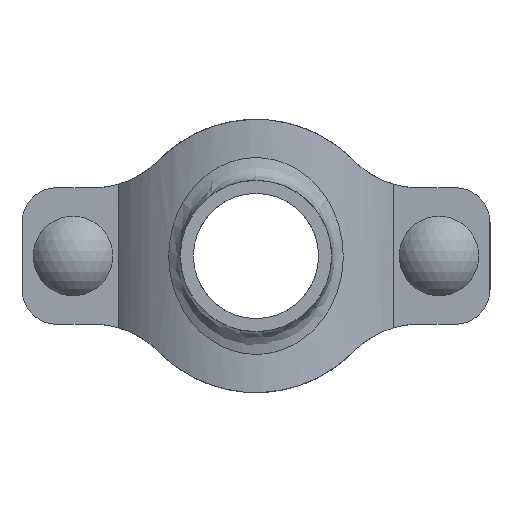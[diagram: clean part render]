
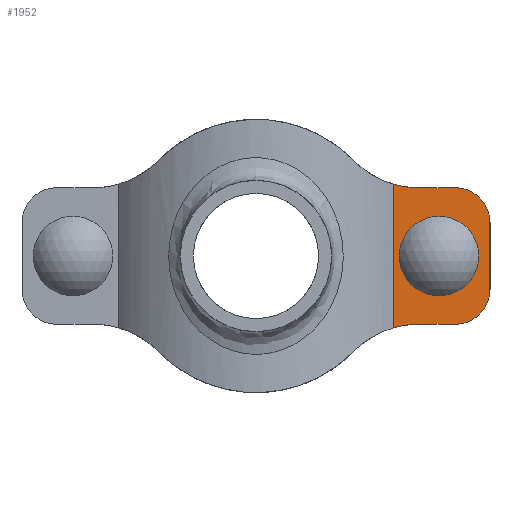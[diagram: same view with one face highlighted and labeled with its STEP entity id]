
A CAD part, front view. The second image highlights one B-rep face of the part: STEP entity #1952.
In plain terms, the highlighted planar face has unit normal (0, -1, 0) as drawn and (0, 1, 0) by its records, which use the part's own axes.
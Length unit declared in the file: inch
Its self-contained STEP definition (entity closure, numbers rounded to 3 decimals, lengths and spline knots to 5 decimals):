
#127=FACE_BOUND('',#345,.T.);
#218=FACE_OUTER_BOUND('',#344,.T.);
#344=EDGE_LOOP('',(#1623,#1624,#1625,#1626,#1627,#1628,#1629,#1630));
#345=EDGE_LOOP('',(#1631,#1632,#1633,#1634));
#457=LINE('',#3719,#603);
#468=LINE('',#3788,#614);
#472=LINE('',#3799,#618);
#490=LINE('',#4006,#636);
#491=LINE('',#4010,#637);
#492=LINE('',#4013,#638);
#603=VECTOR('',#2575,0.3937);
#614=VECTOR('',#2610,0.3937);
#618=VECTOR('',#2622,0.3937);
#636=VECTOR('',#2708,0.3937);
#637=VECTOR('',#2711,0.3937);
#638=VECTOR('',#2714,0.3937);
#712=CIRCLE('',#2164,0.2875);
#714=CIRCLE('',#2168,0.2875);
#733=CIRCLE('',#2203,1.);
#734=CIRCLE('',#2204,1.);
#735=CIRCLE('',#2205,0.38);
#736=CIRCLE('',#2206,0.38);
#858=VERTEX_POINT('',#3707);
#859=VERTEX_POINT('',#3718);
#869=VERTEX_POINT('',#3778);
#870=VERTEX_POINT('',#3779);
#873=VERTEX_POINT('',#3787);
#875=VERTEX_POINT('',#3793);
#907=VERTEX_POINT('',#4001);
#908=VERTEX_POINT('',#4003);
#909=VERTEX_POINT('',#4005);
#910=VERTEX_POINT('',#4007);
#911=VERTEX_POINT('',#4009);
#912=VERTEX_POINT('',#4011);
#1089=EDGE_CURVE('',#859,#858,#457,.T.);
#1104=EDGE_CURVE('',#869,#870,#712,.T.);
#1108=EDGE_CURVE('',#870,#873,#468,.T.);
#1111=EDGE_CURVE('',#873,#875,#714,.T.);
#1114=EDGE_CURVE('',#875,#869,#472,.T.);
#1156=EDGE_CURVE('',#859,#907,#733,.T.);
#1157=EDGE_CURVE('',#908,#858,#734,.T.);
#1158=EDGE_CURVE('',#909,#908,#490,.T.);
#1159=EDGE_CURVE('',#910,#909,#735,.T.);
#1160=EDGE_CURVE('',#911,#910,#491,.T.);
#1161=EDGE_CURVE('',#912,#911,#736,.T.);
#1162=EDGE_CURVE('',#907,#912,#492,.T.);
#1623=ORIENTED_EDGE('',*,*,#1156,.F.);
#1624=ORIENTED_EDGE('',*,*,#1089,.T.);
#1625=ORIENTED_EDGE('',*,*,#1157,.F.);
#1626=ORIENTED_EDGE('',*,*,#1158,.F.);
#1627=ORIENTED_EDGE('',*,*,#1159,.F.);
#1628=ORIENTED_EDGE('',*,*,#1160,.F.);
#1629=ORIENTED_EDGE('',*,*,#1161,.F.);
#1630=ORIENTED_EDGE('',*,*,#1162,.F.);
#1631=ORIENTED_EDGE('',*,*,#1111,.T.);
#1632=ORIENTED_EDGE('',*,*,#1114,.T.);
#1633=ORIENTED_EDGE('',*,*,#1104,.T.);
#1634=ORIENTED_EDGE('',*,*,#1108,.T.);
#1749=PLANE('',#2202);
#1952=ADVANCED_FACE('',(#218,#127),#1749,.F.);
#2164=AXIS2_PLACEMENT_3D('',#3780,#2602,#2603);
#2168=AXIS2_PLACEMENT_3D('',#3794,#2615,#2616);
#2202=AXIS2_PLACEMENT_3D('',#4000,#2702,#2703);
#2203=AXIS2_PLACEMENT_3D('',#4002,#2704,#2705);
#2204=AXIS2_PLACEMENT_3D('',#4004,#2706,#2707);
#2205=AXIS2_PLACEMENT_3D('',#4008,#2709,#2710);
#2206=AXIS2_PLACEMENT_3D('',#4012,#2712,#2713);
#2575=DIRECTION('',(0.,0.,-1.));
#2602=DIRECTION('center_axis',(0.,-1.,0.));
#2603=DIRECTION('ref_axis',(-1.,0.,0.));
#2610=DIRECTION('',(0.,0.,-1.));
#2615=DIRECTION('center_axis',(0.,-1.,0.));
#2616=DIRECTION('ref_axis',(1.,0.,0.));
#2622=DIRECTION('',(0.,0.,1.));
#2702=DIRECTION('center_axis',(0.,-1.,0.));
#2703=DIRECTION('ref_axis',(1.,0.,0.));
#2704=DIRECTION('center_axis',(0.,1.,0.));
#2705=DIRECTION('ref_axis',(-0.714,0.,0.7));
#2706=DIRECTION('center_axis',(0.,1.,0.));
#2707=DIRECTION('ref_axis',(0.,0.,-1.));
#2708=DIRECTION('',(1.,0.,0.));
#2709=DIRECTION('center_axis',(0.,-1.,0.));
#2710=DIRECTION('ref_axis',(0.,0.,-1.));
#2711=DIRECTION('',(0.,0.,-1.));
#2712=DIRECTION('center_axis',(0.,-1.,0.));
#2713=DIRECTION('ref_axis',(-1.,0.,0.));
#2714=DIRECTION('',(-1.,0.,0.));
#3707=CARTESIAN_POINT('',(-1.50967,1.25,-0.78875));
#3718=CARTESIAN_POINT('',(-1.50967,1.25,0.78875));
#3719=CARTESIAN_POINT('',(-1.50967,1.25,0.));
#3778=CARTESIAN_POINT('',(-1.7225,1.25,0.0925));
#3779=CARTESIAN_POINT('',(-2.2975,1.25,0.0925));
#3780=CARTESIAN_POINT('Origin',(-2.01,1.25,0.0925));
#3787=CARTESIAN_POINT('',(-2.2975,1.25,-0.0925));
#3788=CARTESIAN_POINT('',(-2.2975,1.25,-0.04625));
#3793=CARTESIAN_POINT('',(-1.7225,1.25,-0.0925));
#3794=CARTESIAN_POINT('Origin',(-2.01,1.25,-0.0925));
#3799=CARTESIAN_POINT('',(-1.7225,1.25,0.04625));
#4000=CARTESIAN_POINT('Origin',(-2.57,1.25,0.));
#4001=CARTESIAN_POINT('',(-1.78536,1.25,0.75));
#4002=CARTESIAN_POINT('Origin',(-1.78536,1.25,1.75));
#4003=CARTESIAN_POINT('',(-1.78536,1.25,-0.75));
#4004=CARTESIAN_POINT('Origin',(-1.78536,1.25,-1.75));
#4005=CARTESIAN_POINT('',(-2.19,1.25,-0.75));
#4006=CARTESIAN_POINT('',(-2.17768,1.25,-0.75));
#4007=CARTESIAN_POINT('',(-2.57,1.25,-0.37));
#4008=CARTESIAN_POINT('Origin',(-2.19,1.25,-0.37));
#4009=CARTESIAN_POINT('',(-2.57,1.25,0.37));
#4010=CARTESIAN_POINT('',(-2.57,1.25,-0.185));
#4011=CARTESIAN_POINT('',(-2.19,1.25,0.75));
#4012=CARTESIAN_POINT('Origin',(-2.19,1.25,0.37));
#4013=CARTESIAN_POINT('',(-2.38,1.25,0.75));
